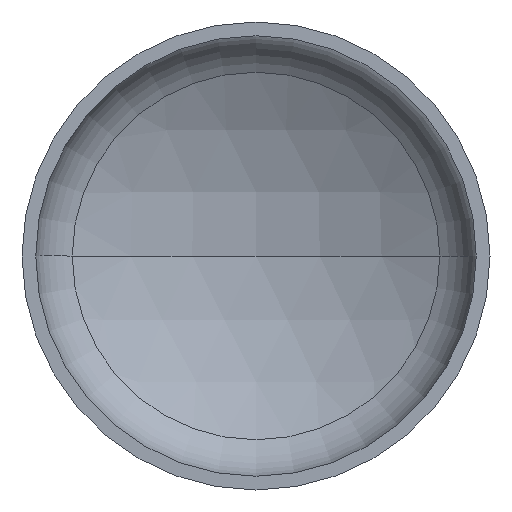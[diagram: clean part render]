
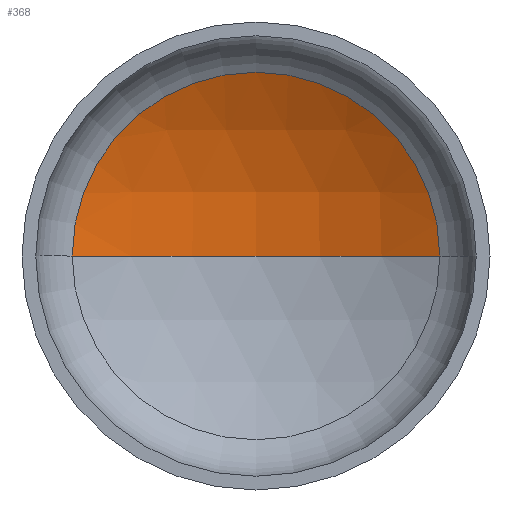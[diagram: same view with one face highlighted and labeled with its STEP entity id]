
A CAD part, front view. The second image highlights one B-rep face of the part: STEP entity #368.
In plain terms, the highlighted spherical face has radius 2560 mm.
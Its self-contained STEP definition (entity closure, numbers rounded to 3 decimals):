
#4 = EDGE_LOOP ( 'NONE', ( #143, #109, #134 ) ) ;
#9 = AXIS2_PLACEMENT_3D ( 'NONE', #250, #247, #102 ) ;
#12 = AXIS2_PLACEMENT_3D ( 'NONE', #296, #269, #92 ) ;
#13 = AXIS2_PLACEMENT_3D ( 'NONE', #169, #390, #100 ) ;
#17 = AXIS2_PLACEMENT_3D ( 'NONE', #156, #410, #270 ) ;
#92 = DIRECTION ( 'NONE',  ( -1., 0., 0. ) ) ;
#95 = VERTEX_POINT ( 'NONE', #383 ) ;
#100 = DIRECTION ( 'NONE',  ( 1., 0., 0. ) ) ;
#102 = DIRECTION ( 'NONE',  ( -1., 0., 0. ) ) ;
#109 = ORIENTED_EDGE ( 'NONE', *, *, #356, .T. ) ;
#127 = VERTEX_POINT ( 'NONE', #317 ) ;
#134 = ORIENTED_EDGE ( 'NONE', *, *, #353, .T. ) ;
#143 = ORIENTED_EDGE ( 'NONE', *, *, #342, .F. ) ;
#156 = CARTESIAN_POINT ( 'NONE',  ( 0., -1703.509, 0. ) ) ;
#167 = SPHERICAL_SURFACE ( 'NONE', #9, 2560. ) ;
#169 = CARTESIAN_POINT ( 'NONE',  ( 0., 526.918, 0. ) ) ;
#174 = CIRCLE ( 'NONE', #17, 2560. ) ;
#226 = FACE_OUTER_BOUND ( 'NONE', #4, .T. ) ;
#238 = CARTESIAN_POINT ( 'NONE',  ( 1256.502, 526.918, 0. ) ) ;
#247 = DIRECTION ( 'NONE',  ( 0., 0., -1. ) ) ;
#250 = CARTESIAN_POINT ( 'NONE',  ( 0., -1703.509, 0. ) ) ;
#269 = DIRECTION ( 'NONE',  ( 0., 0., -1. ) ) ;
#270 = DIRECTION ( 'NONE',  ( 1., 0., 0. ) ) ;
#287 = CIRCLE ( 'NONE', #13, 1256.502 ) ;
#293 = VERTEX_POINT ( 'NONE', #238 ) ;
#296 = CARTESIAN_POINT ( 'NONE',  ( 0., -1703.509, 0. ) ) ;
#317 = CARTESIAN_POINT ( 'NONE',  ( -1256.502, 526.918, 0. ) ) ;
#342 = EDGE_CURVE ( 'NONE', #95, #127, #174, .T. ) ;
#353 = EDGE_CURVE ( 'NONE', #293, #127, #287, .T. ) ;
#356 = EDGE_CURVE ( 'NONE', #95, #293, #411, .T. ) ;
#368 = ADVANCED_FACE ( 'NONE', ( #226 ), #167, .F. ) ;
#383 = CARTESIAN_POINT ( 'NONE',  ( 0., 856.491, 0. ) ) ;
#390 = DIRECTION ( 'NONE',  ( 0., -1., 0. ) ) ;
#410 = DIRECTION ( 'NONE',  ( 0., 0., 1. ) ) ;
#411 = CIRCLE ( 'NONE', #12, 2560. ) ;
